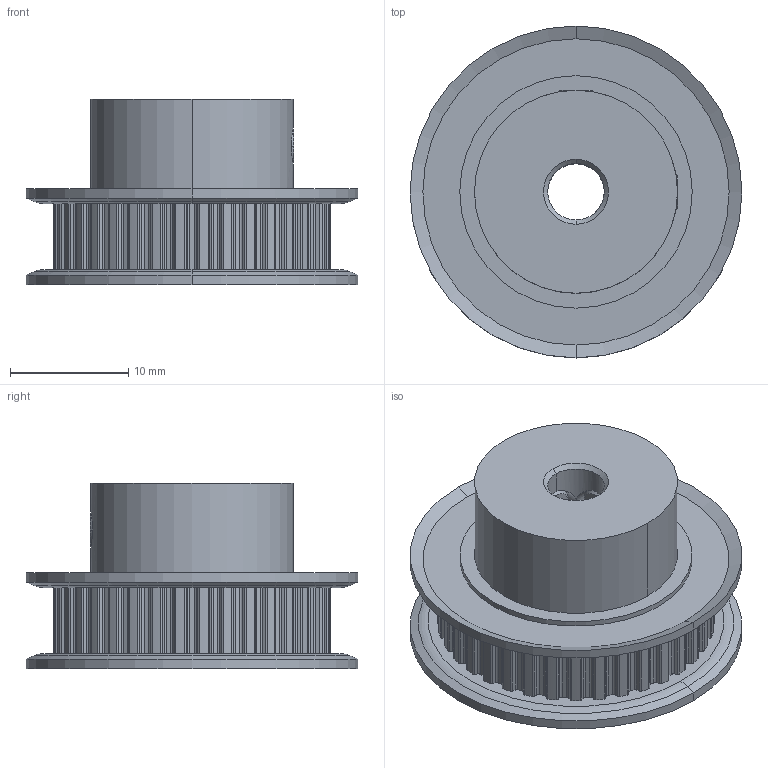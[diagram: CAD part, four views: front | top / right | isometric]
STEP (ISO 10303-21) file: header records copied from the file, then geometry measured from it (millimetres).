
FILE_DESCRIPTION((''),'2;1');
FILE_NAME('42491','2011-01-23T',('carefree'),(''),'PRO/ENGINEER BY PARAMETRIC TECHNOLOGY CORPORATION, 2005030','PRO/ENGINEER BY PARAMETRIC TECHNOLOGY CORPORATION, 2005030','');
FILE_SCHEMA(('CONFIG_CONTROL_DESIGN'));
Length unit declared in the file: inch
Products named in the file (1): 42491
Bounding box: 28.07 x 28.07 x 15.67 mm (x, y, z)
Volume: 5063.1 mm3; surface area: 3002.3 mm2
Topology: 1 solids, 1 shells, 357 faces, 1025 edges, 678 vertices
Faces by surface type: cylinder 200, plane 133, cone 20, torus 4
Entity records: 12268 total; most frequent: CARTESIAN_POINT 2465, DIRECTION 2158, ORIENTED_EDGE 2050, EDGE_CURVE 1025, AXIS2_PLACEMENT_3D 787, VERTEX_POINT 678, VECTOR 584, LINE 584
